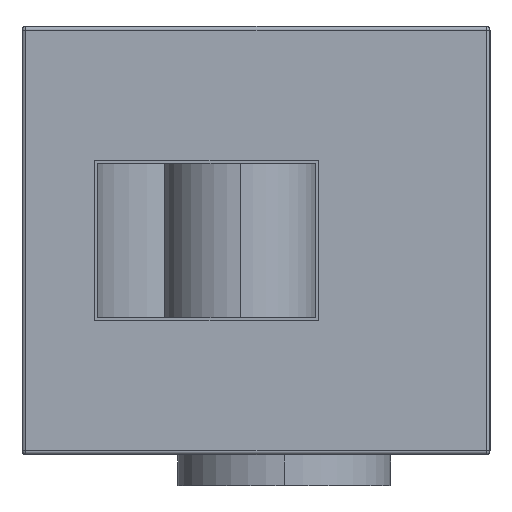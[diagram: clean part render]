
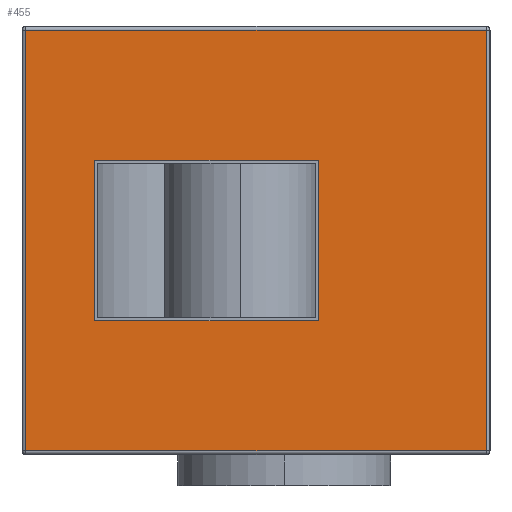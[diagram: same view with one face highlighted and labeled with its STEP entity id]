
A CAD part, left-side view. The second image highlights one B-rep face of the part: STEP entity #455.
In plain terms, the highlighted planar face has unit normal (-1, 0, 0).
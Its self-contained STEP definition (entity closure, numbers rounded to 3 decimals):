
#455=ADVANCED_FACE('',(#924,#925),#926,.T.);
#924=FACE_BOUND('',#1386,.T.);
#925=FACE_OUTER_BOUND('',#1387,.T.);
#926=PLANE('',#1388);
#1386=EDGE_LOOP('',(#2692,#2693,#2694,#2695));
#1387=EDGE_LOOP('',(#2696,#2697,#2698,#2699));
#1388=AXIS2_PLACEMENT_3D('',#2700,#2701,#2702);
#2692=ORIENTED_EDGE('',*,*,#3140,.T.);
#2693=ORIENTED_EDGE('',*,*,#3135,.T.);
#2694=ORIENTED_EDGE('',*,*,#3147,.T.);
#2695=ORIENTED_EDGE('',*,*,#3150,.T.);
#2696=ORIENTED_EDGE('',*,*,#3220,.F.);
#2697=ORIENTED_EDGE('',*,*,#3160,.F.);
#2698=ORIENTED_EDGE('',*,*,#3222,.T.);
#2699=ORIENTED_EDGE('',*,*,#3205,.T.);
#2700=CARTESIAN_POINT('',(-425.0,0.0,0.));
#2701=DIRECTION('',(-1.0,0.0,0.));
#2702=DIRECTION('',(0.,0.0,1.0));
#3135=EDGE_CURVE('',#3847,#3848,#3849,.T.);
#3140=EDGE_CURVE('',#3856,#3847,#3857,.T.);
#3147=EDGE_CURVE('',#3848,#3866,#3867,.T.);
#3150=EDGE_CURVE('',#3866,#3856,#3870,.T.);
#3160=EDGE_CURVE('',#3872,#3885,#3886,.T.);
#3205=EDGE_CURVE('',#3945,#3904,#3949,.T.);
#3220=EDGE_CURVE('',#3885,#3904,#3964,.T.);
#3222=EDGE_CURVE('',#3872,#3945,#3966,.T.);
#3847=VERTEX_POINT('',#4784);
#3848=VERTEX_POINT('',#4785);
#3849=LINE('',#4786,#4787);
#3856=VERTEX_POINT('',#4797);
#3857=LINE('',#4798,#4799);
#3866=VERTEX_POINT('',#4812);
#3867=LINE('',#4813,#4814);
#3870=LINE('',#4818,#4819);
#3872=VERTEX_POINT('',#4821);
#3885=VERTEX_POINT('',#4836);
#3886=LINE('',#4837,#4838);
#3904=VERTEX_POINT('',#4859);
#3945=VERTEX_POINT('',#4908);
#3949=LINE('',#4912,#4913);
#3964=LINE('',#4935,#4936);
#3966=LINE('',#4938,#4939);
#4784=CARTESIAN_POINT('',(-425.0,-80.5,-104.0));
#4785=CARTESIAN_POINT('',(-425.0,208.5,-104.0));
#4786=CARTESIAN_POINT('',(-425.0,32.0,-104.0));
#4787=VECTOR('',#5483,1.0);
#4797=CARTESIAN_POINT('',(-425.0,-80.5,104.0));
#4798=CARTESIAN_POINT('',(-425.0,-80.5,0.));
#4799=VECTOR('',#5487,1.0);
#4812=CARTESIAN_POINT('',(-425.0,208.5,104.0));
#4813=CARTESIAN_POINT('',(-425.0,208.5,0.));
#4814=VECTOR('',#5492,1.0);
#4818=CARTESIAN_POINT('',(-425.0,32.0,104.0));
#4819=VECTOR('',#5494,1.0);
#4821=CARTESIAN_POINT('',(-425.0,-297.5,272.0));
#4836=CARTESIAN_POINT('',(-425.0,-297.5,-272.0));
#4837=CARTESIAN_POINT('',(-425.0,-297.5,0.));
#4838=VECTOR('',#5509,1.0);
#4859=CARTESIAN_POINT('',(-425.0,297.5,-272.0));
#4908=CARTESIAN_POINT('',(-425.0,297.5,272.0));
#4912=CARTESIAN_POINT('',(-425.0,297.5,0.));
#4913=VECTOR('',#5581,1.0);
#4935=CARTESIAN_POINT('',(-425.0,0.0,-272.0));
#4936=VECTOR('',#5589,1.0);
#4938=CARTESIAN_POINT('',(-425.0,0.,272.0));
#4939=VECTOR('',#5590,1.0);
#5483=DIRECTION('',(0.0,1.0,0.0));
#5487=DIRECTION('',(0.,0.0,-1.0));
#5492=DIRECTION('',(0.,0.0,1.0));
#5494=DIRECTION('',(0.0,-1.0,0.0));
#5509=DIRECTION('',(0.,0.,-1.0));
#5581=DIRECTION('',(0.,0.,-1.0));
#5589=DIRECTION('',(0.,1.0,0.));
#5590=DIRECTION('',(0.,1.0,0.));
